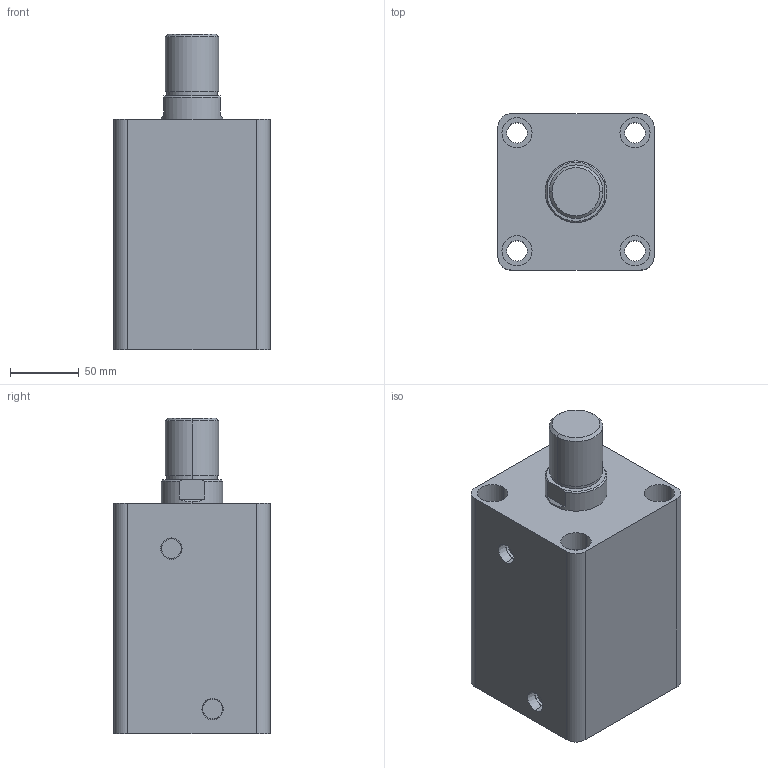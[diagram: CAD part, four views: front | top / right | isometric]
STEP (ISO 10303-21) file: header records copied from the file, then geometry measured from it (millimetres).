
FILE_DESCRIPTION (( 'STEP AP203' ), '1' );
FILE_NAME ('HTB-SD80-90W.STEP', '2019-10-07T08:41:42', ( '微软用户' ), ( '微软中国' ), 'SwSTEP 2.0', 'SolidWorks 2012', '' );
FILE_SCHEMA (( 'CONFIG_CONTROL_DESIGN' ));
Length unit declared in the file: millimetre
Products named in the file (3): HTB-SD80-90W; HTB-SD80-90W活塞杆; HTB-SD80-90掛极
Assembly tree (2 placements, depth 2):
  HTB-SD80-90W
    HTB-SD80-90掛极
    HTB-SD80-90W活塞杆
Bounding box: 114 x 114 x 230 mm (x, y, z)
Volume: 1792043.8 mm3; surface area: 217982.8 mm2
Topology: 2 solids, 2 shells, 87 faces, 190 edges, 124 vertices
Faces by surface type: cylinder 44, plane 29, cone 8, torus 6
Entity records: 2761 total; most frequent: DIRECTION 478, CARTESIAN_POINT 434, ORIENTED_EDGE 380, AXIS2_PLACEMENT_3D 204, EDGE_CURVE 190, VERTEX_POINT 124, CIRCLE 112, EDGE_LOOP 112
